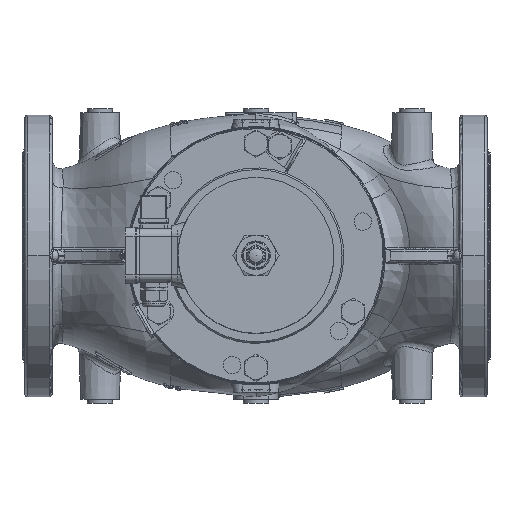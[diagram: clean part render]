
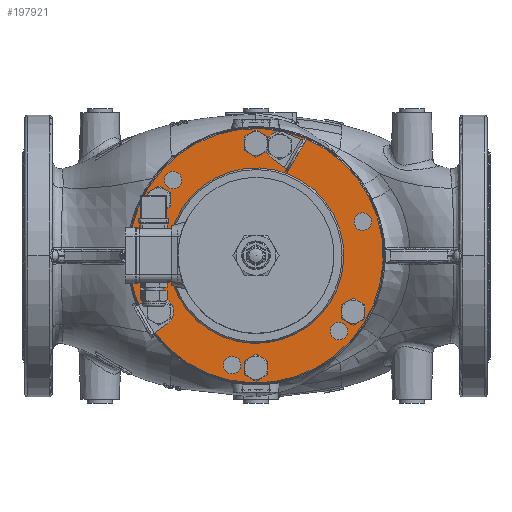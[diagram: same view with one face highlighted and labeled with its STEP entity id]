
A CAD part, top view. The second image highlights one B-rep face of the part: STEP entity #197921.
In plain terms, the highlighted planar face has unit normal (0, 0, 1).
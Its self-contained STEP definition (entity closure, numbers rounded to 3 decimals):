
#197540=CARTESIAN_POINT('',(-60.582,-66.557,198.));
#197541=VERTEX_POINT('',#197540);
#197542=CARTESIAN_POINT('',(0.,0.,198.));
#197543=DIRECTION('',(0.,0.,1.));
#197544=DIRECTION('',(-0.673,-0.74,0.));
#197545=AXIS2_PLACEMENT_3D('',#197542,#197543,#197544);
#197546=CIRCLE('',#197545,90.);
#197547=EDGE_CURVE('',#197541,#197541,#197546,.T.);
#197592=CARTESIAN_POINT('',(-103.504,-28.29,198.));
#197593=VERTEX_POINT('',#197592);
#197594=CARTESIAN_POINT('',(-109.562,-34.946,198.));
#197595=DIRECTION('',(0.,0.,-1.0));
#197596=DIRECTION('',(0.673,0.74,0.));
#197597=AXIS2_PLACEMENT_3D('',#197594,#197595,#197596);
#197598=CIRCLE('',#197597,9.);
#197599=EDGE_CURVE('',#197593,#197593,#197598,.T.);
#197633=CARTESIAN_POINT('',(-27.252,-103.782,198.));
#197634=VERTEX_POINT('',#197633);
#197635=CARTESIAN_POINT('',(-24.517,-112.356,198.));
#197636=DIRECTION('',(0.,0.,-1.0));
#197637=DIRECTION('',(-0.304,0.953,0.));
#197638=AXIS2_PLACEMENT_3D('',#197635,#197636,#197637);
#197639=CIRCLE('',#197638,9.);
#197640=EDGE_CURVE('',#197634,#197634,#197639,.T.);
#197674=CARTESIAN_POINT('',(76.252,-75.492,198.));
#197675=VERTEX_POINT('',#197674);
#197676=CARTESIAN_POINT('',(85.045,-77.41,198.));
#197677=DIRECTION('',(0.,0.,-1.));
#197678=DIRECTION('',(-0.977,0.213,0.));
#197679=AXIS2_PLACEMENT_3D('',#197676,#197677,#197678);
#197680=CIRCLE('',#197679,9.);
#197681=EDGE_CURVE('',#197675,#197675,#197680,.T.);
#197715=CARTESIAN_POINT('',(103.504,28.29,198.));
#197716=VERTEX_POINT('',#197715);
#197717=CARTESIAN_POINT('',(109.562,34.946,198.));
#197718=DIRECTION('',(0.,0.,-1.0));
#197719=DIRECTION('',(-0.673,-0.74,0.));
#197720=AXIS2_PLACEMENT_3D('',#197717,#197718,#197719);
#197721=CIRCLE('',#197720,9.);
#197722=EDGE_CURVE('',#197716,#197716,#197721,.T.);
#197756=CARTESIAN_POINT('',(27.252,103.782,198.));
#197757=VERTEX_POINT('',#197756);
#197758=CARTESIAN_POINT('',(24.517,112.356,198.));
#197759=DIRECTION('',(0.,0.,-1.));
#197760=DIRECTION('',(0.304,-0.953,0.));
#197761=AXIS2_PLACEMENT_3D('',#197758,#197759,#197760);
#197762=CIRCLE('',#197761,9.);
#197763=EDGE_CURVE('',#197757,#197757,#197762,.T.);
#197797=CARTESIAN_POINT('',(-76.252,75.492,198.));
#197798=VERTEX_POINT('',#197797);
#197799=CARTESIAN_POINT('',(-85.045,77.41,198.));
#197800=DIRECTION('',(0.,0.,-1.0));
#197801=DIRECTION('',(0.977,-0.213,0.));
#197802=AXIS2_PLACEMENT_3D('',#197799,#197800,#197801);
#197803=CIRCLE('',#197802,9.0);
#197804=EDGE_CURVE('',#197798,#197798,#197803,.T.);
#197829=CARTESIAN_POINT('',(-74.55,-81.902,198.));
#197830=DIRECTION('',(0.0,0.0,-1.0));
#197831=DIRECTION('',(-0.673,-0.74,0.0));
#197832=AXIS2_PLACEMENT_3D('',#197829,#197830,#197831);
#197833=PLANE('',#197832);
#197834=CARTESIAN_POINT('',(-87.844,-96.507,198.));
#197835=VERTEX_POINT('',#197834);
#197836=CARTESIAN_POINT('',(0.,0.,198.));
#197837=DIRECTION('',(0.,0.,-1.0));
#197838=DIRECTION('',(0.673,0.74,0.));
#197839=AXIS2_PLACEMENT_3D('',#197836,#197837,#197838);
#197840=CIRCLE('',#197839,130.5);
#197841=EDGE_CURVE('',#197835,#197835,#197840,.T.);
#197842=ORIENTED_EDGE('',*,*,#197841,.F.);
#197843=EDGE_LOOP('',(#197842));
#197844=FACE_OUTER_BOUND('',#197843,.T.);
#197845=CARTESIAN_POINT('',(0.,-123.,198.));
#197846=VERTEX_POINT('',#197845);
#197847=CARTESIAN_POINT('',(0.,-115.,198.));
#197848=DIRECTION('',(0.0,0.0,-1.0));
#197849=DIRECTION('',(0.0,1.0,0.0));
#197850=AXIS2_PLACEMENT_3D('',#197847,#197848,#197849);
#197851=CIRCLE('',#197850,8.);
#197852=EDGE_CURVE('',#197846,#197846,#197851,.T.);
#197853=ORIENTED_EDGE('',*,*,#197852,.T.);
#197854=EDGE_LOOP('',(#197853));
#197855=FACE_BOUND('',#197854,.T.);
#197856=CARTESIAN_POINT('',(99.593,-65.5,198.));
#197857=VERTEX_POINT('',#197856);
#197858=CARTESIAN_POINT('',(99.593,-57.5,198.));
#197859=DIRECTION('',(0.0,0.0,-1.0));
#197860=DIRECTION('',(0.0,1.0,0.0));
#197861=AXIS2_PLACEMENT_3D('',#197858,#197859,#197860);
#197862=CIRCLE('',#197861,8.);
#197863=EDGE_CURVE('',#197857,#197857,#197862,.T.);
#197864=ORIENTED_EDGE('',*,*,#197863,.T.);
#197865=EDGE_LOOP('',(#197864));
#197866=FACE_BOUND('',#197865,.T.);
#197867=CARTESIAN_POINT('',(0.,107.,198.));
#197868=VERTEX_POINT('',#197867);
#197869=CARTESIAN_POINT('',(0.,115.,198.));
#197870=DIRECTION('',(0.0,0.0,-1.0));
#197871=DIRECTION('',(0.0,1.0,0.0));
#197872=AXIS2_PLACEMENT_3D('',#197869,#197870,#197871);
#197873=CIRCLE('',#197872,8.);
#197874=EDGE_CURVE('',#197868,#197868,#197873,.T.);
#197875=ORIENTED_EDGE('',*,*,#197874,.T.);
#197876=EDGE_LOOP('',(#197875));
#197877=FACE_BOUND('',#197876,.T.);
#197878=CARTESIAN_POINT('',(-99.593,49.5,198.));
#197879=VERTEX_POINT('',#197878);
#197880=CARTESIAN_POINT('',(-99.593,57.5,198.));
#197881=DIRECTION('',(0.0,0.0,-1.0));
#197882=DIRECTION('',(0.0,1.0,0.0));
#197883=AXIS2_PLACEMENT_3D('',#197880,#197881,#197882);
#197884=CIRCLE('',#197883,8.);
#197885=EDGE_CURVE('',#197879,#197879,#197884,.T.);
#197886=ORIENTED_EDGE('',*,*,#197885,.T.);
#197887=EDGE_LOOP('',(#197886));
#197888=FACE_BOUND('',#197887,.T.);
#197889=CARTESIAN_POINT('',(-99.593,-65.5,198.));
#197890=VERTEX_POINT('',#197889);
#197891=CARTESIAN_POINT('',(-99.593,-57.5,198.));
#197892=DIRECTION('',(0.0,0.0,-1.0));
#197893=DIRECTION('',(0.0,1.0,0.0));
#197894=AXIS2_PLACEMENT_3D('',#197891,#197892,#197893);
#197895=CIRCLE('',#197894,8.);
#197896=EDGE_CURVE('',#197890,#197890,#197895,.T.);
#197897=ORIENTED_EDGE('',*,*,#197896,.T.);
#197898=EDGE_LOOP('',(#197897));
#197899=FACE_BOUND('',#197898,.T.);
#197900=ORIENTED_EDGE('',*,*,#197547,.F.);
#197901=EDGE_LOOP('',(#197900));
#197902=FACE_BOUND('',#197901,.T.);
#197903=ORIENTED_EDGE('',*,*,#197599,.T.);
#197904=EDGE_LOOP('',(#197903));
#197905=FACE_BOUND('',#197904,.T.);
#197906=ORIENTED_EDGE('',*,*,#197640,.T.);
#197907=EDGE_LOOP('',(#197906));
#197908=FACE_BOUND('',#197907,.T.);
#197909=ORIENTED_EDGE('',*,*,#197681,.T.);
#197910=EDGE_LOOP('',(#197909));
#197911=FACE_BOUND('',#197910,.T.);
#197912=ORIENTED_EDGE('',*,*,#197722,.T.);
#197913=EDGE_LOOP('',(#197912));
#197914=FACE_BOUND('',#197913,.T.);
#197915=ORIENTED_EDGE('',*,*,#197763,.T.);
#197916=EDGE_LOOP('',(#197915));
#197917=FACE_BOUND('',#197916,.T.);
#197918=ORIENTED_EDGE('',*,*,#197804,.T.);
#197919=EDGE_LOOP('',(#197918));
#197920=FACE_BOUND('',#197919,.T.);
#197921=ADVANCED_FACE('',(#197844,#197855,#197866,#197877,#197888,#197899,#197902,#197905,#197908,#197911,#197914,#197917,#197920),#197833,.F.);
